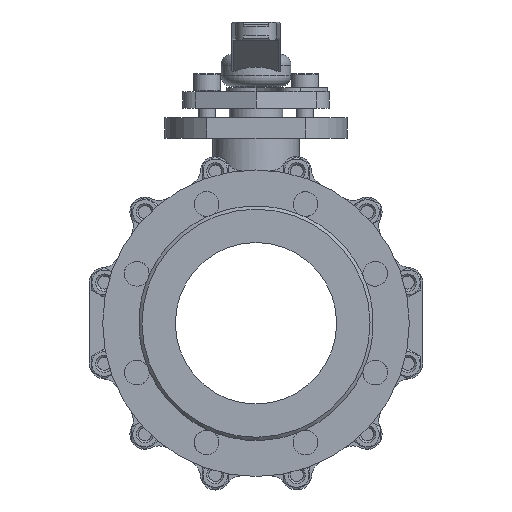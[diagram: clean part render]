
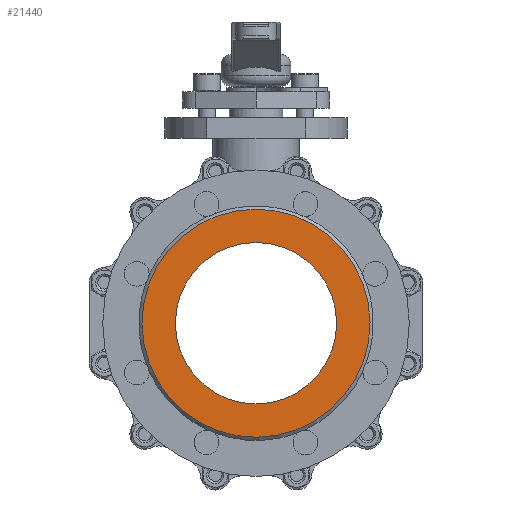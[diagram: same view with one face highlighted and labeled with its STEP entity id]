
A CAD part, left-side view. The second image highlights one B-rep face of the part: STEP entity #21440.
In plain terms, the highlighted planar face has unit normal (-1, 0, 0).
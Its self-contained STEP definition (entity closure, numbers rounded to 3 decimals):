
#21440=ADVANCED_FACE('',(#40689,#40691),#40693,.T.);
#40689=FACE_BOUND('',#40690,.T.);
#40690=EDGE_LOOP('',(#57085));
#40691=FACE_BOUND('',#40692,.T.);
#40692=EDGE_LOOP('',(#57086));
#40693=PLANE('',#40694);
#40694=AXIS2_PLACEMENT_3D('',#40695,#40696,#40697);
#40695=CARTESIAN_POINT('',(14917.822,2611.901,58.016));
#40696=DIRECTION('',(-1.,0.,0.));
#40697=DIRECTION('',(0.,-1.,0.));
#57085=ORIENTED_EDGE('',*,*,#65448,.F.);
#57086=ORIENTED_EDGE('',*,*,#65290,.T.);
#65290=EDGE_CURVE('',#77467,#77467,#77468,.T.);
#65448=EDGE_CURVE('',#77736,#77736,#77737,.T.);
#77467=VERTEX_POINT('',#104499);
#77468=CIRCLE('',#104500,75.);
#77736=VERTEX_POINT('',#105506);
#77737=CIRCLE('',#105507,106.);
#104499=CARTESIAN_POINT('',(14917.822,2536.901,-47.984));
#104500=AXIS2_PLACEMENT_3D('',#104501,#104502,#104503);
#104501=CARTESIAN_POINT('',(14917.822,2611.901,-47.984));
#104502=DIRECTION('',(1.,0.,0.));
#104503=DIRECTION('',(0.,-1.,0.));
#105506=CARTESIAN_POINT('',(14917.822,2592.748,-152.24));
#105507=AXIS2_PLACEMENT_3D('',#105508,#105509,#105510);
#105508=CARTESIAN_POINT('',(14917.822,2611.901,-47.984));
#105509=DIRECTION('',(1.,0.,0.));
#105510=DIRECTION('',(0.,0.,1.));
